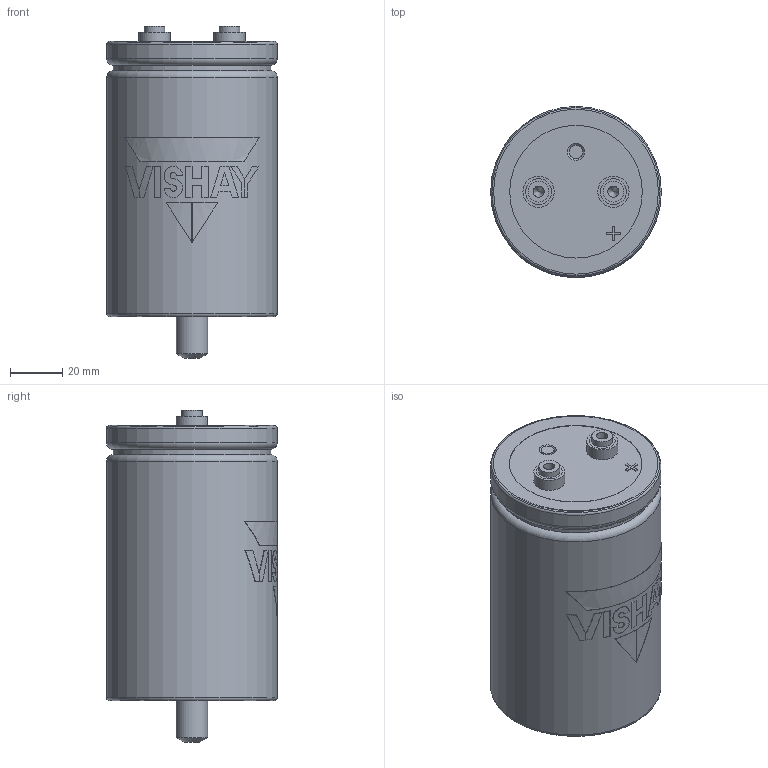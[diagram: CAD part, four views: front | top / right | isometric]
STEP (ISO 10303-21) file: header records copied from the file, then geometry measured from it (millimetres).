
FILE_DESCRIPTION(('FreeCAD Model'),'2;1');
FILE_NAME('C:/Users/tvandesteeg/Documents/Documents/FreeCAD/Stepfiles/ST capacitors/STB_HP_M5_65x105.step','2020-07-02T17:22:34',('Author'),(''), 'Open CASCADE STEP processor 7.3','FreeCAD','Unknown');
FILE_SCHEMA(('AUTOMOTIVE_DESIGN { 1 0 10303 214 1 1 1 1 }'));
Length unit declared in the file: millimetre
Products named in the file (7): VentBody; TerminalBody_(Mirror_#2); TerminalBody; Disc; LogoPrint; CanBody; STBBottomBody
Bounding box: 65 x 65.1 x 126.5 mm (x, y, z)
Volume: 345689.1 mm3; surface area: 48777.7 mm2
Topology: 17 solids, 17 shells, 152 faces, 318 edges, 209 vertices
Faces by surface type: plane 94, cylinder 49, torus 5, cone 4
Full cylindrical faces by diameter (mm): 4.2 x2, 5 x2, 7.9 x2, 9.9 x6, 11.9 x2, 11.966 x1, 50.556 x3, 60 x1, 60.6 x2, 65 x2
Entity records: 10758 total; most frequent: CARTESIAN_POINT 3348, DIRECTION 1228, ORIENTED_EDGE 632, PCURVE 632, DEFINITIONAL_REPRESENTATION 632, LINE 542, VECTOR 542, EDGE_CURVE 316
